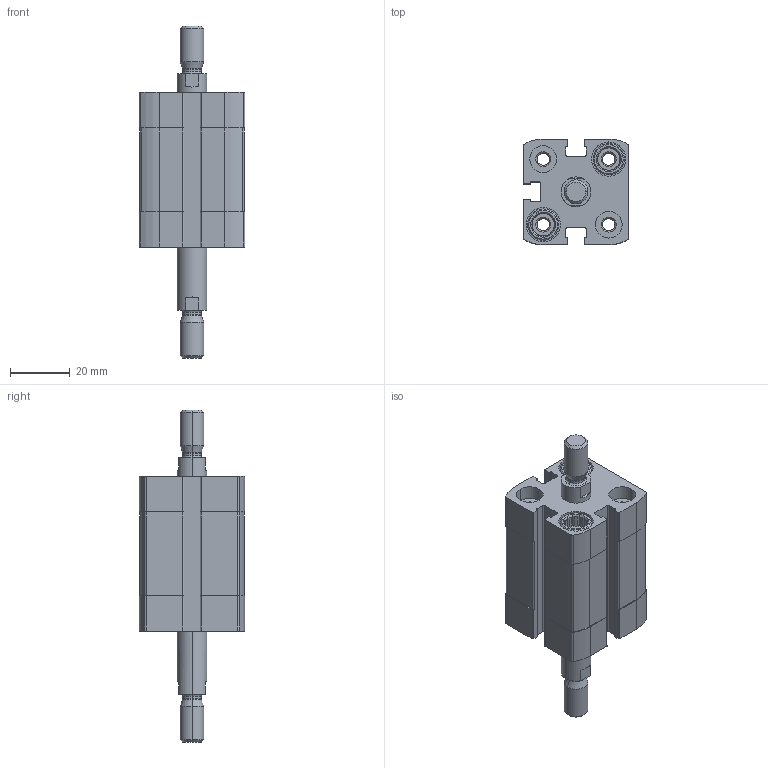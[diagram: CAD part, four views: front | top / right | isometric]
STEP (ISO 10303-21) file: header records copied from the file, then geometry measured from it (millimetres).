
FILE_DESCRIPTION (( 'STEP AP203' ), '1' );
FILE_NAME ('CCN20-15-P.STEP', '2020-06-22T18:39:33', ( '' ), ( '' ), 'SwSTEP 2.0', 'SolidWorks 2019', '' );
FILE_SCHEMA (( 'CONFIG_CONTROL_DESIGN' ));
Length unit declared in the file: millimetre
Products named in the file (1): CCN20-15-P
Bounding box: 35.5 x 35.5 x 111.5 mm (x, y, z)
Volume: 52645.9 mm3; surface area: 23362.7 mm2
Topology: 2 solids, 2 shells, 428 faces, 1122 edges, 730 vertices
Faces by surface type: plane 236, cylinder 140, cone 44, torus 8
Entity records: 13443 total; most frequent: CARTESIAN_POINT 2581, DIRECTION 2318, ORIENTED_EDGE 2244, EDGE_CURVE 1122, AXIS2_PLACEMENT_3D 867, VERTEX_POINT 730, LINE 584, VECTOR 584
